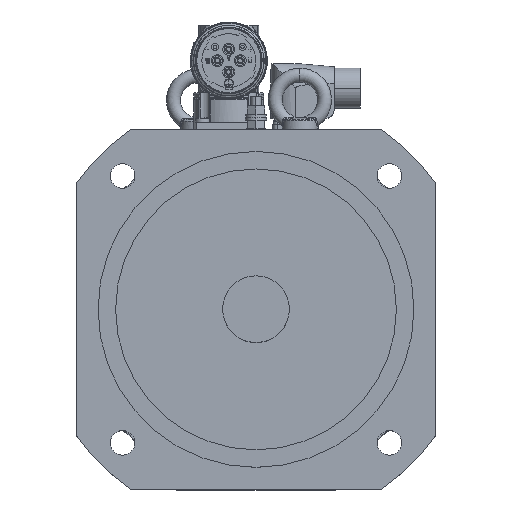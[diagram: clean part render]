
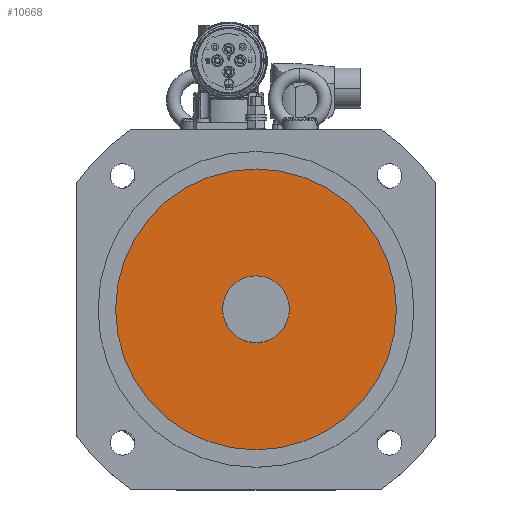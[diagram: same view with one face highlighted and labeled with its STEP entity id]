
A CAD part, top view. The second image highlights one B-rep face of the part: STEP entity #10668.
In plain terms, the highlighted planar face has unit normal (0, 0, 1).
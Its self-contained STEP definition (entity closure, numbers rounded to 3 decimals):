
#2809 = AXIS2_PLACEMENT_3D ( 'NONE', #2892, #2894, #2893 ) ;
#2892 = CARTESIAN_POINT ( 'NONE',  ( 0., 0., 52. ) ) ;
#2893 = DIRECTION ( 'NONE',  ( 1., 0., 0. ) ) ;
#2894 = DIRECTION ( 'NONE',  ( 0., 0., 1. ) ) ;
#2896 = PLANE ( 'NONE',  #2809 ) ;
#3500 = CIRCLE ( 'NONE', #16882, 80. ) ;
#4308 = DIRECTION ( 'NONE',  ( 1., 0., 0. ) ) ;
#4309 = DIRECTION ( 'NONE',  ( 0., 0., 1. ) ) ;
#4310 = CARTESIAN_POINT ( 'NONE',  ( 0., 0., 52. ) ) ;
#6013 = AXIS2_PLACEMENT_3D ( 'NONE', #31508, #31548, #31512 ) ;
#6293 = AXIS2_PLACEMENT_3D ( 'NONE', #31326, #31454, #31296 ) ;
#6334 = AXIS2_PLACEMENT_3D ( 'NONE', #31036, #31174, #30894 ) ;
#7106 = ORIENTED_EDGE ( 'NONE', *, *, #16316, .T. ) ;
#7107 = ORIENTED_EDGE ( 'NONE', *, *, #7663, .T. ) ;
#7108 = ORIENTED_EDGE ( 'NONE', *, *, #16726, .F. ) ;
#7109 = ORIENTED_EDGE ( 'NONE', *, *, #16539, .F. ) ;
#7663 = EDGE_CURVE ( 'NONE', #19259, #19346, #3500, .T. ) ;
#9946 = FACE_BOUND ( 'NONE', #30018, .T. ) ;
#10254 = FACE_OUTER_BOUND ( 'NONE', #30025, .T. ) ;
#10668 = ADVANCED_FACE ( 'NONE', ( #10254, #9946 ), #2896, .T. ) ;
#16316 = EDGE_CURVE ( 'NONE', #19346, #19259, #22640, .T. ) ;
#16539 = EDGE_CURVE ( 'NONE', #19277, #19352, #22649, .T. ) ;
#16726 = EDGE_CURVE ( 'NONE', #19352, #19277, #22410, .T. ) ;
#16882 = AXIS2_PLACEMENT_3D ( 'NONE', #4310, #4309, #4308 ) ;
#19259 = VERTEX_POINT ( 'NONE', #28423 ) ;
#19277 = VERTEX_POINT ( 'NONE', #29636 ) ;
#19346 = VERTEX_POINT ( 'NONE', #29501 ) ;
#19352 = VERTEX_POINT ( 'NONE', #29605 ) ;
#22410 = CIRCLE ( 'NONE', #6334, 19. ) ;
#22640 = CIRCLE ( 'NONE', #6013, 80. ) ;
#22649 = CIRCLE ( 'NONE', #6293, 19. ) ;
#28423 = CARTESIAN_POINT ( 'NONE',  ( -80., 0., 52. ) ) ;
#29501 = CARTESIAN_POINT ( 'NONE',  ( 80., 0., 52. ) ) ;
#29605 = CARTESIAN_POINT ( 'NONE',  ( -19., 0., 52. ) ) ;
#29636 = CARTESIAN_POINT ( 'NONE',  ( 19., 0., 52. ) ) ;
#30018 = EDGE_LOOP ( 'NONE', ( #7108, #7109 ) ) ;
#30025 = EDGE_LOOP ( 'NONE', ( #7106, #7107 ) ) ;
#30894 = DIRECTION ( 'NONE',  ( 1., 0., 0. ) ) ;
#31036 = CARTESIAN_POINT ( 'NONE',  ( 0., 0., 52. ) ) ;
#31174 = DIRECTION ( 'NONE',  ( 0., 0., 1. ) ) ;
#31296 = DIRECTION ( 'NONE',  ( 1., 0., 0. ) ) ;
#31326 = CARTESIAN_POINT ( 'NONE',  ( 0., 0., 52. ) ) ;
#31454 = DIRECTION ( 'NONE',  ( 0., 0., 1. ) ) ;
#31508 = CARTESIAN_POINT ( 'NONE',  ( 0., 0., 52. ) ) ;
#31512 = DIRECTION ( 'NONE',  ( 1., 0., 0. ) ) ;
#31548 = DIRECTION ( 'NONE',  ( 0., 0., 1. ) ) ;
